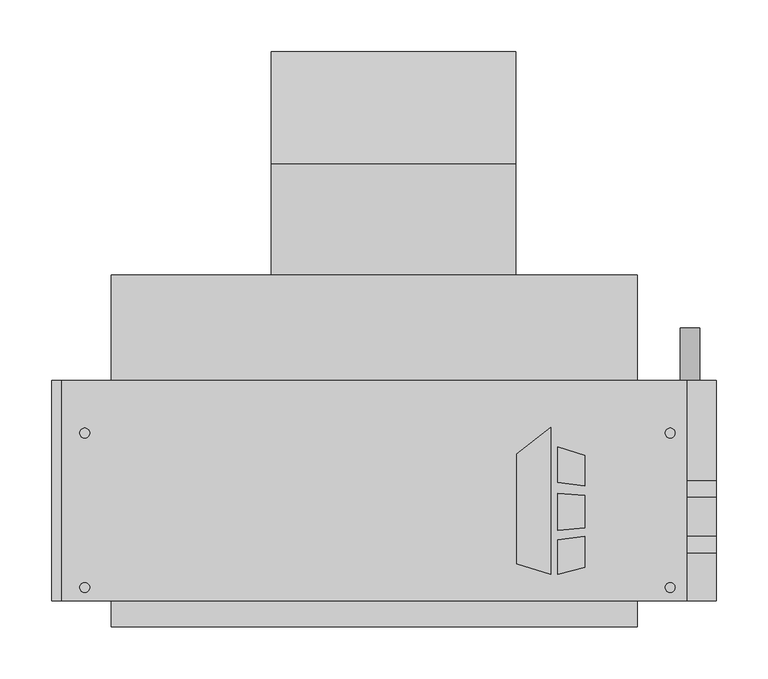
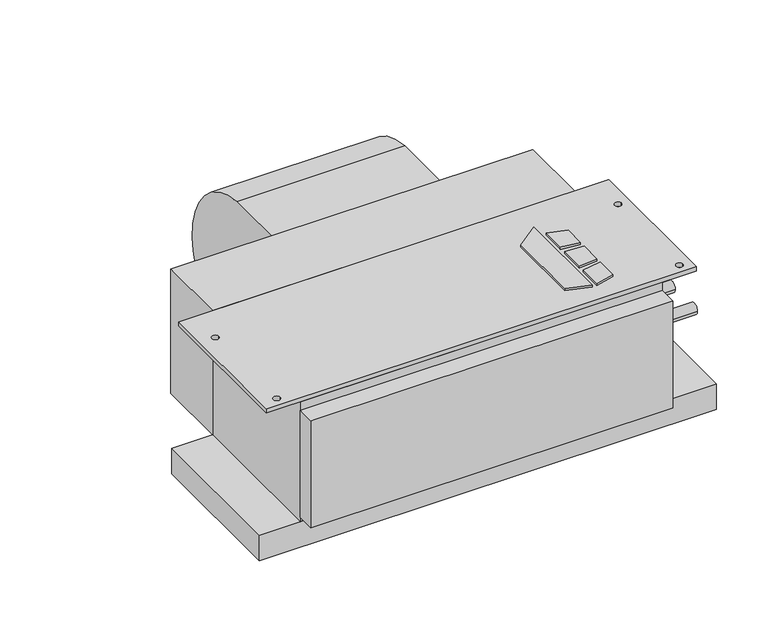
"""IFC4 building model written with IfcOpenShell, lengths in millimetres: proxy geometry, Concealed_Horizontal_Fan_Coil_Unit_-_CHY_-_IEC_-_2-Pipe_Cool-EHeat_RH_2022 : Size 03 - 277v/60Hz/1Ph - 4 Row 3.0kW."""

from ifc_helpers import new_model, si_unit, point, frame, frame_2d, origin, origin_with_axes, place, context, project, spatial, polyline, circle_curve, trimmed, segment, composite_curve, outline, extrude, source, transform, mapped, element, save


def mechanical_equipment_d764b94b(model_context):
    return source(origin(), model_context, "Body", "SweptSolid", [
        extrude(outline(polyline([(290.2019761, -202.5703476), (322.7602728, -177.1330184), (322.7602728, -319.0875), (290.2019761, -308.8679201), (290.2019761, -202.5703476)])), origin_with_axes(), (0.0, 0.0, 1.0), 3.175),
        extrude(outline(polyline([(329.5186058, -230.442352), (329.5186058, -195.9624379), (355.6, -204.1490115), (355.6, -233.6447446), (329.5186058, -230.442352)])), origin_with_axes(), (0.0, 0.0, 1.0), 3.175),
        extrude(outline(polyline([(355.6, -312.0990115), (329.5186058, -319.0875), (329.5186058, -285.8661996), (355.6, -282.3243564), (355.6, -312.0990115)])), origin_with_axes(), (0.0, 0.0, 1.0), 3.175),
        extrude(outline(polyline([(355.6, -242.7263277), (355.6, -273.976483), (329.5186058, -276.717748), (329.5186058, -240.8600378), (355.6, -242.7263277)])), origin_with_axes(), (0.0, 0.0, 1.0), 3.175),
        extrude(outline(composite_curve([segment(trimmed(circle_curve(frame_2d((68.401169, -136.0299844)), 117.3559541), [point((77.7875, -19.05))], [point((185.7375, -138.176))], False, "CARTESIAN"), True, "CONTINUOUS"), segment(trimmed(circle_curve(frame_2d((90.0022663, -136.4250563)), 95.7512443), [point((185.7375, -138.176))], [point((77.7875, -231.394))], False, "CARTESIAN"), True, "CONTINUOUS"), segment(trimmed(circle_curve(frame_2d((89.9711869, -136.6666968)), 95.5076133), [point((77.7875, -231.394))], [point((-5.5245, -138.176))], False, "CARTESIAN"), True, "CONTINUOUS"), segment(trimmed(circle_curve(frame_2d((-24.6059828, -138.4775816)), 19.0838659), [point((-5.5245, -138.176))], [point((-17.7963373, -120.65))], True, "CARTESIAN"), True, "CONTINUOUS"), segment(polyline([(-17.7963373, -120.65), (-30.1625, -120.65), (-30.1625, -19.05), (77.7875, -19.05)]), True, "CONTINUOUS")], self_intersect=False)), frame((53.213, 0.0, 0.0), z_axis=(1.0, 0.0, 0.0), x_axis=(0.0, 1.0, 0.0)), (0.0, 0.0, 1.0), 235.712),
        extrude(outline(polyline([(454.025, -131.7625), (454.025, -344.4875), (-149.225, -344.4875), (-149.225, -131.7625), (454.025, -131.7625)]), holes=[composite_curve([segment(trimmed(circle_curve(frame_2d((-127.0, -182.5625)), 4.7625), [point((-131.7625, -182.5625))], [point((-122.2375, -182.5625))], True, "CARTESIAN"), True, "CONTINUOUS"), segment(trimmed(circle_curve(frame_2d((-127.0, -182.5625)), 4.7625), [point((-122.2375, -182.5625))], [point((-131.7625, -182.5625))], True, "CARTESIAN"), True, "CONTINUOUS")], self_intersect=False), composite_curve([segment(trimmed(circle_curve(frame_2d((-127.0, -331.7875)), 4.7625), [point((-131.7625, -331.7875))], [point((-122.2375, -331.7875))], True, "CARTESIAN"), True, "CONTINUOUS"), segment(trimmed(circle_curve(frame_2d((-127.0, -331.7875)), 4.7625), [point((-122.2375, -331.7875))], [point((-131.7625, -331.7875))], True, "CARTESIAN"), True, "CONTINUOUS")], self_intersect=False), composite_curve([segment(trimmed(circle_curve(frame_2d((438.15, -182.5625)), 4.7625), [point((433.3875, -182.5625))], [point((442.9125, -182.5625))], True, "CARTESIAN"), True, "CONTINUOUS"), segment(trimmed(circle_curve(frame_2d((438.15, -182.5625)), 4.7625), [point((442.9125, -182.5625))], [point((433.3875, -182.5625))], True, "CARTESIAN"), True, "CONTINUOUS")], self_intersect=False), composite_curve([segment(trimmed(circle_curve(frame_2d((438.15, -331.7875)), 4.7625), [point((433.3875, -331.7875))], [point((442.9125, -331.7875))], True, "CARTESIAN"), True, "CONTINUOUS"), segment(trimmed(circle_curve(frame_2d((438.15, -331.7875)), 4.7625), [point((442.9125, -331.7875))], [point((433.3875, -331.7875))], True, "CARTESIAN"), True, "CONTINUOUS")], self_intersect=False)]), frame((0.0, 0.0, -6.35), z_axis=(0.0, 0.0, 1.0), x_axis=(1.0, 0.0, 0.0)), (0.0, 0.0, 1.0), 6.35),
        extrude(outline(polyline([(-101.6, -30.1625), (406.4, -30.1625), (406.4, -131.7625), (-101.6, -131.7625), (-101.6, -30.1625)])), frame((0.0, 0.0, -184.15), z_axis=(0.0, 0.0, 1.0), x_axis=(1.0, 0.0, 0.0)), (0.0, 0.0, 1.0), 184.15),
        extrude(outline(composite_curve([segment(trimmed(circle_curve(frame_2d((-209.55, 457.2)), 9.525), [point((-209.55, 447.675))], [point((-209.55, 466.725))], False, "CARTESIAN"), True, "CONTINUOUS"), segment(trimmed(circle_curve(frame_2d((-209.55, 457.2)), 9.525), [point((-209.55, 466.725))], [point((-209.55, 447.675))], False, "CARTESIAN"), True, "CONTINUOUS")], self_intersect=False)), frame((0.0, -131.7625, 0.0), z_axis=(0.0, 1.0, 0.0), x_axis=(0.0, 0.0, 1.0)), (0.0, 0.0, 1.0), 50.8),
        extrude(outline(polyline([(406.4, -369.8875), (-101.6, -369.8875), (-101.6, -344.4875), (406.4, -344.4875), (406.4, -369.8875)])), frame((0.0, 0.0, -177.8), z_axis=(0.0, 0.0, 1.0), x_axis=(1.0, 0.0, 0.0)), (0.0, 0.0, 1.0), 158.75),
        extrude(outline(polyline([(482.6, -131.7625), (482.6, -344.4875), (-158.75, -344.4875), (-158.75, -131.7625), (482.6, -131.7625)])), frame((0.0, 0.0, -222.25), z_axis=(0.0, 0.0, 1.0), x_axis=(1.0, 0.0, 0.0)), (0.0, 0.0, 1.0), 38.1),
        extrude(outline(composite_curve([segment(trimmed(circle_curve(frame_2d((-290.5125, -104.775)), 7.9375), [point((-298.45, -104.775))], [point((-282.575, -104.775))], False, "CARTESIAN"), True, "CONTINUOUS"), segment(trimmed(circle_curve(frame_2d((-290.5125, -104.775)), 7.9375), [point((-282.575, -104.775))], [point((-298.45, -104.775))], False, "CARTESIAN"), True, "CONTINUOUS")], self_intersect=False)), frame((406.4, 0.0, 0.0), z_axis=(1.0, 0.0, 0.0), x_axis=(0.0, 1.0, 0.0)), (0.0, 0.0, 1.0), 76.2),
        extrude(outline(composite_curve([segment(trimmed(circle_curve(frame_2d((-236.5375, -104.775)), 7.9375), [point((-244.475, -104.775))], [point((-228.6, -104.775))], False, "CARTESIAN"), True, "CONTINUOUS"), segment(trimmed(circle_curve(frame_2d((-236.5375, -104.775)), 7.9375), [point((-228.6, -104.775))], [point((-244.475, -104.775))], False, "CARTESIAN"), True, "CONTINUOUS")], self_intersect=False)), frame((406.4, 0.0, 0.0), z_axis=(1.0, 0.0, 0.0), x_axis=(0.0, 1.0, 0.0)), (0.0, 0.0, 1.0), 76.2),
        extrude(outline(polyline([(406.4, -344.4875), (-101.6, -344.4875), (-101.6, -131.7625), (406.4, -131.7625), (406.4, -344.4875)])), frame((0.0, 0.0, -184.15), z_axis=(0.0, 0.0, 1.0), x_axis=(1.0, 0.0, 0.0)), (0.0, 0.0, 1.0), 177.8),
    ])


if __name__ == "__main__":
    model = new_model("IFC4")
    model_context = context("Model", 3, world=origin())
    ifc_project = project(units=[si_unit("LENGTHUNIT", "METRE", prefix="MILLI")], contexts=[model_context])
    site = spatial("IfcSite", under=ifc_project)
    building = spatial("IfcBuilding", under=site)
    placement = place(None, origin())
    mechanical_equipment_shape = mechanical_equipment_d764b94b(model_context)
    element("IfcBuildingElementProxy", 1, Name="Concealed_Horizontal_Fan_Coil_Unit_-_CHY_-_IEC_-_2-Pipe_Cool-EHeat_RH_2022 : Size 03 - 277v/60Hz/1Ph - 4 Row 3.0kW", ObjectType="Concealed_Horizontal_Fan_Coil_Unit_-_CHY_-_IEC_-_2-Pipe_Cool-EHeat_RH_2022 : Size 03 - 277v/60Hz/1Ph - 4 Row 3.0kW", at=placement, inside=building, context=model_context, shape_type="MappedRepresentation", body=[
        mapped(mechanical_equipment_shape, transform((0.0, 0.0, 0.0), x_axis=(1.0, 0.0, 0.0), y_axis=(0.0, 1.0, 0.0), z_axis=(0.0, 0.0, 1.0))),
    ])
    save(model, "model.ifc")
